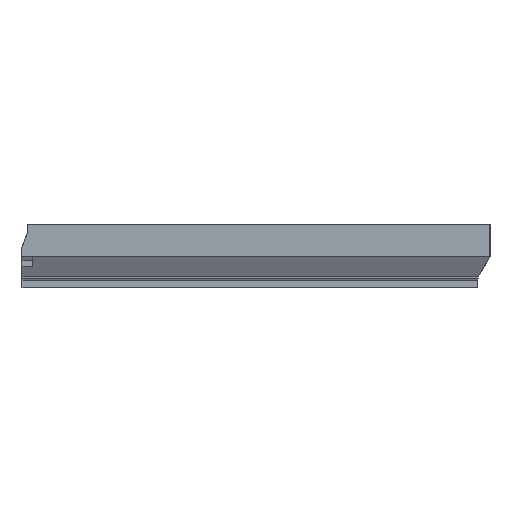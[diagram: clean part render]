
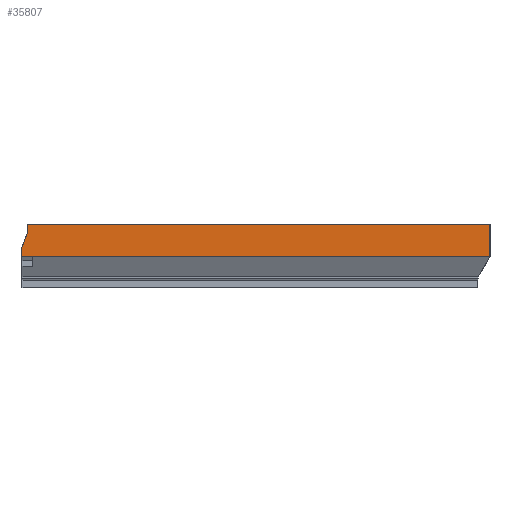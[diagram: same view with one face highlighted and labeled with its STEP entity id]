
A CAD part, left-side view. The second image highlights one B-rep face of the part: STEP entity #35807.
In plain terms, the highlighted planar face has unit normal (-1, 0, 0).
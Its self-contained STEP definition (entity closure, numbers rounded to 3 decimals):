
#3299 = PLANE('',#3300);
#3300 = AXIS2_PLACEMENT_3D('',#3301,#3302,#3303);
#3301 = CARTESIAN_POINT('',(0.,-3.198,24.5));
#3302 = DIRECTION('',(0.,0.,1.));
#3303 = DIRECTION('',(1.,0.,-0.));
#16801 = VERTEX_POINT('',#16802);
#16802 = CARTESIAN_POINT('',(-196.5,-2.1,24.5));
#16815 = PLANE('',#16816);
#16816 = AXIS2_PLACEMENT_3D('',#16817,#16818,#16819);
#16817 = CARTESIAN_POINT('',(-195.6,-2.1,38.));
#16818 = DIRECTION('',(0.,1.,-0.));
#16819 = DIRECTION('',(-1.,0.,0.));
#16826 = EDGE_CURVE('',#16801,#16827,#16829,.T.);
#16827 = VERTEX_POINT('',#16828);
#16828 = CARTESIAN_POINT('',(-196.5,-180.5,24.5));
#16829 = SURFACE_CURVE('',#16830,(#16834,#16841),.PCURVE_S1.);
#16830 = LINE('',#16831,#16832);
#16831 = CARTESIAN_POINT('',(-196.5,152.,24.5));
#16832 = VECTOR('',#16833,1.);
#16833 = DIRECTION('',(0.,-1.,0.));
#16834 = PCURVE('',#3299,#16835);
#16835 = DEFINITIONAL_REPRESENTATION('',(#16836),#16840);
#16836 = LINE('',#16837,#16838);
#16837 = CARTESIAN_POINT('',(-196.5,155.198));
#16838 = VECTOR('',#16839,1.);
#16839 = DIRECTION('',(0.,-1.));
#16840 = ( GEOMETRIC_REPRESENTATION_CONTEXT(2) 
PARAMETRIC_REPRESENTATION_CONTEXT() REPRESENTATION_CONTEXT('2D SPACE',''
  ) );
#16841 = PCURVE('',#16842,#16847);
#16842 = PLANE('',#16843);
#16843 = AXIS2_PLACEMENT_3D('',#16844,#16845,#16846);
#16844 = CARTESIAN_POINT('',(-196.5,152.,12.));
#16845 = DIRECTION('',(1.,0.,-0.));
#16846 = DIRECTION('',(0.,-1.,0.));
#16847 = DEFINITIONAL_REPRESENTATION('',(#16848),#16852);
#16848 = LINE('',#16849,#16850);
#16849 = CARTESIAN_POINT('',(0.,-12.5));
#16850 = VECTOR('',#16851,1.);
#16851 = DIRECTION('',(1.,0.));
#16852 = ( GEOMETRIC_REPRESENTATION_CONTEXT(2) 
PARAMETRIC_REPRESENTATION_CONTEXT() REPRESENTATION_CONTEXT('2D SPACE',''
  ) );
#16870 = PLANE('',#16871);
#16871 = AXIS2_PLACEMENT_3D('',#16872,#16873,#16874);
#16872 = CARTESIAN_POINT('',(-196.5,-180.5,12.));
#16873 = DIRECTION('',(0.,1.,0.));
#16874 = DIRECTION('',(1.,0.,0.));
#17071 = B_SPLINE_SURFACE_WITH_KNOTS('',1,1,(
    (#17072,#17073)
    ,(#17074,#17075
    )),.UNSPECIFIED.,.F.,.F.,.F.,(2,2),(2,2),(0.,332.5),(0.,1.),
  .PIECEWISE_BEZIER_KNOTS.);
#17072 = CARTESIAN_POINT('',(-192.,152.,4.2));
#17073 = CARTESIAN_POINT('',(-196.5,152.,12.));
#17074 = CARTESIAN_POINT('',(-192.,-176.,4.2));
#17075 = CARTESIAN_POINT('',(-196.5,-180.5,12.));
#35138 = VERTEX_POINT('',#35139);
#35139 = CARTESIAN_POINT('',(-196.5,-180.5,12.));
#35412 = VERTEX_POINT('',#35413);
#35413 = CARTESIAN_POINT('',(-196.5,-2.1,21.));
#35427 = PLANE('',#35428);
#35428 = AXIS2_PLACEMENT_3D('',#35429,#35430,#35431);
#35429 = CARTESIAN_POINT('',(-195.6,-2.1,21.));
#35430 = DIRECTION('',(0.,0.94,0.342));
#35431 = DIRECTION('',(-1.,0.,0.));
#35439 = EDGE_CURVE('',#35412,#16801,#35440,.T.);
#35440 = SURFACE_CURVE('',#35441,(#35445,#35451),.PCURVE_S1.);
#35441 = LINE('',#35442,#35443);
#35442 = CARTESIAN_POINT('',(-196.5,-2.1,25.));
#35443 = VECTOR('',#35444,1.);
#35444 = DIRECTION('',(0.,0.,1.));
#35445 = PCURVE('',#16815,#35446);
#35446 = DEFINITIONAL_REPRESENTATION('',(#35447),#35450);
#35447 = B_SPLINE_CURVE_WITH_KNOTS('',1,(#35448,#35449),.UNSPECIFIED.,
  .F.,.F.,(2,2),(-4.,-0.5),.PIECEWISE_BEZIER_KNOTS.);
#35448 = CARTESIAN_POINT('',(0.9,-17.));
#35449 = CARTESIAN_POINT('',(0.9,-13.5));
#35450 = ( GEOMETRIC_REPRESENTATION_CONTEXT(2) 
PARAMETRIC_REPRESENTATION_CONTEXT() REPRESENTATION_CONTEXT('2D SPACE',''
  ) );
#35451 = PCURVE('',#16842,#35452);
#35452 = DEFINITIONAL_REPRESENTATION('',(#35453),#35456);
#35453 = B_SPLINE_CURVE_WITH_KNOTS('',1,(#35454,#35455),.UNSPECIFIED.,
  .F.,.F.,(2,2),(-4.,-0.5),.PIECEWISE_BEZIER_KNOTS.);
#35454 = CARTESIAN_POINT('',(154.1,-9.));
#35455 = CARTESIAN_POINT('',(154.1,-12.5));
#35456 = ( GEOMETRIC_REPRESENTATION_CONTEXT(2) 
PARAMETRIC_REPRESENTATION_CONTEXT() REPRESENTATION_CONTEXT('2D SPACE',''
  ) );
#35523 = PLANE('',#35524);
#35524 = AXIS2_PLACEMENT_3D('',#35525,#35526,#35527);
#35525 = CARTESIAN_POINT('',(-195.6,-0.1,8.));
#35526 = DIRECTION('',(0.,1.,-0.));
#35527 = DIRECTION('',(-1.,0.,0.));
#35744 = EDGE_CURVE('',#16827,#35138,#35745,.T.);
#35745 = SURFACE_CURVE('',#35746,(#35750,#35757),.PCURVE_S1.);
#35746 = LINE('',#35747,#35748);
#35747 = CARTESIAN_POINT('',(-196.5,-180.5,24.5));
#35748 = VECTOR('',#35749,1.);
#35749 = DIRECTION('',(0.,0.,-1.));
#35750 = PCURVE('',#16870,#35751);
#35751 = DEFINITIONAL_REPRESENTATION('',(#35752),#35756);
#35752 = LINE('',#35753,#35754);
#35753 = CARTESIAN_POINT('',(0.,-12.5));
#35754 = VECTOR('',#35755,1.);
#35755 = DIRECTION('',(0.,1.));
#35756 = ( GEOMETRIC_REPRESENTATION_CONTEXT(2) 
PARAMETRIC_REPRESENTATION_CONTEXT() REPRESENTATION_CONTEXT('2D SPACE',''
  ) );
#35757 = PCURVE('',#16842,#35758);
#35758 = DEFINITIONAL_REPRESENTATION('',(#35759),#35763);
#35759 = LINE('',#35760,#35761);
#35760 = CARTESIAN_POINT('',(332.5,-12.5));
#35761 = VECTOR('',#35762,1.);
#35762 = DIRECTION('',(0.,1.));
#35763 = ( GEOMETRIC_REPRESENTATION_CONTEXT(2) 
PARAMETRIC_REPRESENTATION_CONTEXT() REPRESENTATION_CONTEXT('2D SPACE',''
  ) );
#35807 = ADVANCED_FACE('',(#35808),#16842,.F.);
#35808 = FACE_BOUND('',#35809,.F.);
#35809 = EDGE_LOOP('',(#35810,#35811,#35812,#35813,#35836,#35857));
#35810 = ORIENTED_EDGE('',*,*,#35439,.T.);
#35811 = ORIENTED_EDGE('',*,*,#16826,.T.);
#35812 = ORIENTED_EDGE('',*,*,#35744,.T.);
#35813 = ORIENTED_EDGE('',*,*,#35814,.F.);
#35814 = EDGE_CURVE('',#35815,#35138,#35817,.T.);
#35815 = VERTEX_POINT('',#35816);
#35816 = CARTESIAN_POINT('',(-196.5,-0.1,12.));
#35817 = SURFACE_CURVE('',#35818,(#35822,#35829),.PCURVE_S1.);
#35818 = LINE('',#35819,#35820);
#35819 = CARTESIAN_POINT('',(-196.5,152.,12.));
#35820 = VECTOR('',#35821,1.);
#35821 = DIRECTION('',(0.,-1.,0.));
#35822 = PCURVE('',#16842,#35823);
#35823 = DEFINITIONAL_REPRESENTATION('',(#35824),#35828);
#35824 = LINE('',#35825,#35826);
#35825 = CARTESIAN_POINT('',(0.,0.));
#35826 = VECTOR('',#35827,1.);
#35827 = DIRECTION('',(1.,0.));
#35828 = ( GEOMETRIC_REPRESENTATION_CONTEXT(2) 
PARAMETRIC_REPRESENTATION_CONTEXT() REPRESENTATION_CONTEXT('2D SPACE',''
  ) );
#35829 = PCURVE('',#17071,#35830);
#35830 = DEFINITIONAL_REPRESENTATION('',(#35831),#35835);
#35831 = LINE('',#35832,#35833);
#35832 = CARTESIAN_POINT('',(0.,1.));
#35833 = VECTOR('',#35834,1.);
#35834 = DIRECTION('',(1.,0.));
#35835 = ( GEOMETRIC_REPRESENTATION_CONTEXT(2) 
PARAMETRIC_REPRESENTATION_CONTEXT() REPRESENTATION_CONTEXT('2D SPACE',''
  ) );
#35836 = ORIENTED_EDGE('',*,*,#35837,.T.);
#35837 = EDGE_CURVE('',#35815,#35838,#35840,.T.);
#35838 = VERTEX_POINT('',#35839);
#35839 = CARTESIAN_POINT('',(-196.5,-0.1,15.5));
#35840 = SURFACE_CURVE('',#35841,(#35845,#35851),.PCURVE_S1.);
#35841 = LINE('',#35842,#35843);
#35842 = CARTESIAN_POINT('',(-196.5,-0.1,10.));
#35843 = VECTOR('',#35844,1.);
#35844 = DIRECTION('',(0.,0.,1.));
#35845 = PCURVE('',#16842,#35846);
#35846 = DEFINITIONAL_REPRESENTATION('',(#35847),#35850);
#35847 = B_SPLINE_CURVE_WITH_KNOTS('',1,(#35848,#35849),.UNSPECIFIED.,
  .F.,.F.,(2,2),(2.,5.5),.PIECEWISE_BEZIER_KNOTS.);
#35848 = CARTESIAN_POINT('',(152.1,0.));
#35849 = CARTESIAN_POINT('',(152.1,-3.5));
#35850 = ( GEOMETRIC_REPRESENTATION_CONTEXT(2) 
PARAMETRIC_REPRESENTATION_CONTEXT() REPRESENTATION_CONTEXT('2D SPACE',''
  ) );
#35851 = PCURVE('',#35523,#35852);
#35852 = DEFINITIONAL_REPRESENTATION('',(#35853),#35856);
#35853 = B_SPLINE_CURVE_WITH_KNOTS('',1,(#35854,#35855),.UNSPECIFIED.,
  .F.,.F.,(2,2),(2.,5.5),.PIECEWISE_BEZIER_KNOTS.);
#35854 = CARTESIAN_POINT('',(0.9,4.));
#35855 = CARTESIAN_POINT('',(0.9,7.5));
#35856 = ( GEOMETRIC_REPRESENTATION_CONTEXT(2) 
PARAMETRIC_REPRESENTATION_CONTEXT() REPRESENTATION_CONTEXT('2D SPACE',''
  ) );
#35857 = ORIENTED_EDGE('',*,*,#35858,.T.);
#35858 = EDGE_CURVE('',#35838,#35412,#35859,.T.);
#35859 = SURFACE_CURVE('',#35860,(#35864,#35870),.PCURVE_S1.);
#35860 = LINE('',#35861,#35862);
#35861 = CARTESIAN_POINT('',(-196.5,8.344,-7.72));
#35862 = VECTOR('',#35863,1.);
#35863 = DIRECTION('',(0.,-0.342,0.94));
#35864 = PCURVE('',#16842,#35865);
#35865 = DEFINITIONAL_REPRESENTATION('',(#35866),#35869);
#35866 = B_SPLINE_CURVE_WITH_KNOTS('',1,(#35867,#35868),.UNSPECIFIED.,
  .F.,.F.,(2,2),(24.708,30.56),
  .PIECEWISE_BEZIER_KNOTS.);
#35867 = CARTESIAN_POINT('',(152.1,-3.5));
#35868 = CARTESIAN_POINT('',(154.1,-9.));
#35869 = ( GEOMETRIC_REPRESENTATION_CONTEXT(2) 
PARAMETRIC_REPRESENTATION_CONTEXT() REPRESENTATION_CONTEXT('2D SPACE',''
  ) );
#35870 = PCURVE('',#35427,#35871);
#35871 = DEFINITIONAL_REPRESENTATION('',(#35872),#35875);
#35872 = B_SPLINE_CURVE_WITH_KNOTS('',1,(#35873,#35874),.UNSPECIFIED.,
  .F.,.F.,(2,2),(24.708,30.56),
  .PIECEWISE_BEZIER_KNOTS.);
#35873 = CARTESIAN_POINT('',(0.9,-5.852));
#35874 = CARTESIAN_POINT('',(0.9,0.));
#35875 = ( GEOMETRIC_REPRESENTATION_CONTEXT(2) 
PARAMETRIC_REPRESENTATION_CONTEXT() REPRESENTATION_CONTEXT('2D SPACE',''
  ) );
